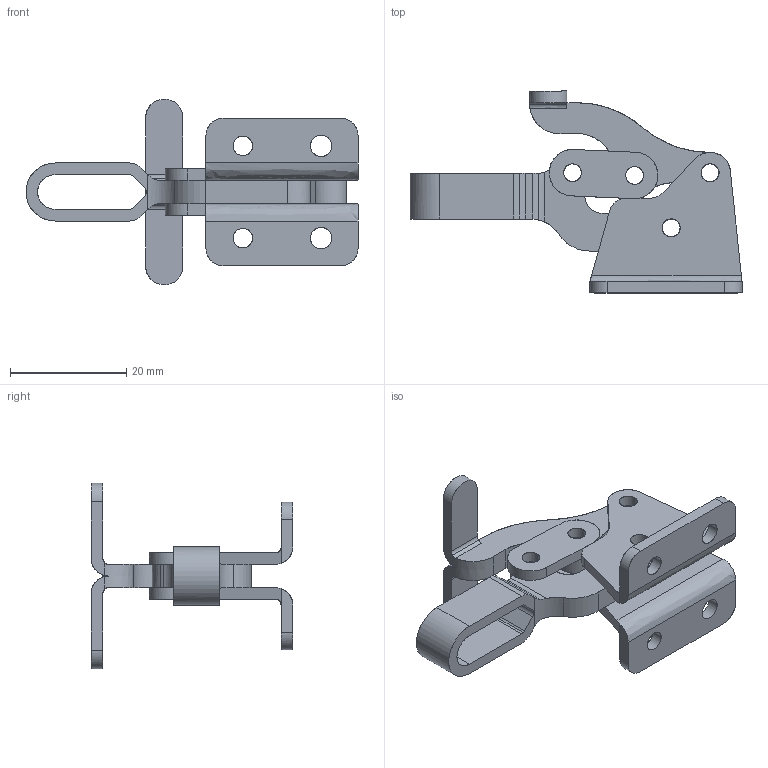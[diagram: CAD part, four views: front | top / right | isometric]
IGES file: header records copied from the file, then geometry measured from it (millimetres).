
Start section: Comment
Global section: file name: 13005.igs; native system:  By Spatial Corp.; preprocessor: XPlus PS/IGES 3.0; author: Author; organization: Title; date: 20050216.173042; units: inch
Bounding box: 57.2 x 34.76 x 31.98 mm (x, y, z)
Surface area: 6966.6 mm2 (no closed solid volume)
Topology: 0 solids, 0 shells, 156 faces, 846 edges, 846 vertices
Faces by surface type: revolution 97, extrusion 59
